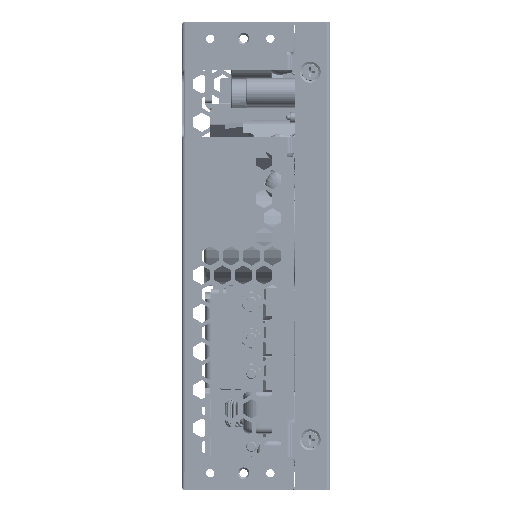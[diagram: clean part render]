
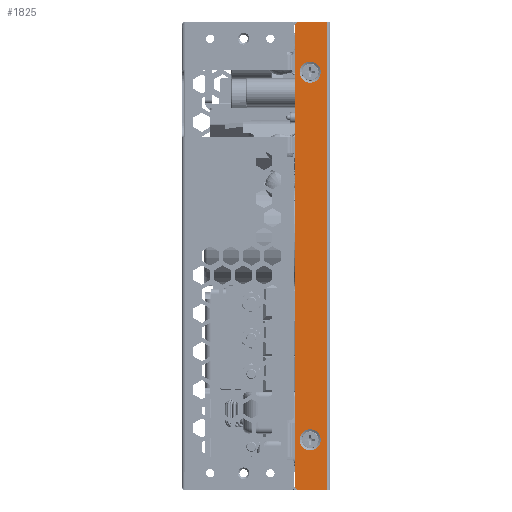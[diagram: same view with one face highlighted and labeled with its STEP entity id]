
A CAD part, left-side view. The second image highlights one B-rep face of the part: STEP entity #1825.
In plain terms, the highlighted planar face has unit normal (-1, 0, 0).
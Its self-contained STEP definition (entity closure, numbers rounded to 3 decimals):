
#260=DIRECTION('',(0.,0.,1.));
#261=VECTOR('',#260,140.);
#262=CARTESIAN_POINT('',(-44.45,1.,-70.));
#263=LINE('',#262,#261);
#398=DIRECTION('',(0.,1.,0.));
#399=VECTOR('',#398,8.5);
#400=CARTESIAN_POINT('',(-44.45,1.,70.));
#401=LINE('',#400,#399);
#410=CARTESIAN_POINT('',(-44.45,9.5,69.));
#411=DIRECTION('',(1.,0.,0.));
#412=DIRECTION('',(0.,1.,0.));
#413=AXIS2_PLACEMENT_3D('',#410,#411,#412);
#415=DIRECTION('',(0.,1.,0.));
#416=VECTOR('',#415,8.5);
#417=CARTESIAN_POINT('',(-44.45,1.,-70.));
#418=LINE('',#417,#416);
#419=CARTESIAN_POINT('',(-44.45,9.5,-69.));
#420=DIRECTION('',(1.,0.,0.));
#421=DIRECTION('',(0.,0.,-1.));
#422=AXIS2_PLACEMENT_3D('',#419,#420,#421);
#424=CARTESIAN_POINT('',(-44.45,6.,55.));
#425=DIRECTION('',(-1.,0.,0.));
#426=DIRECTION('',(0.,1.,0.));
#427=AXIS2_PLACEMENT_3D('',#424,#425,#426);
#429=CARTESIAN_POINT('',(-44.45,6.,55.));
#430=DIRECTION('',(-1.,0.,0.));
#431=DIRECTION('',(0.,-1.,0.));
#432=AXIS2_PLACEMENT_3D('',#429,#430,#431);
#434=CARTESIAN_POINT('',(-44.45,6.,-55.));
#435=DIRECTION('',(-1.,0.,0.));
#436=DIRECTION('',(0.,1.,0.));
#437=AXIS2_PLACEMENT_3D('',#434,#435,#436);
#439=CARTESIAN_POINT('',(-44.45,6.,-55.));
#440=DIRECTION('',(-1.,0.,0.));
#441=DIRECTION('',(0.,-1.,0.));
#442=AXIS2_PLACEMENT_3D('',#439,#440,#441);
#494=DIRECTION('',(0.,0.,-1.));
#495=VECTOR('',#494,138.);
#496=CARTESIAN_POINT('',(-44.45,10.5,69.));
#497=LINE('',#496,#495);
#1136=CARTESIAN_POINT('',(-44.45,1.,-70.));
#1137=VERTEX_POINT('',#1136);
#1142=CARTESIAN_POINT('',(-44.45,1.,70.));
#1143=VERTEX_POINT('',#1142);
#1211=CARTESIAN_POINT('',(-44.45,9.5,70.));
#1213=VERTEX_POINT('',#1211);
#1214=CARTESIAN_POINT('',(-44.45,10.5,69.));
#1215=VERTEX_POINT('',#1214);
#1218=CARTESIAN_POINT('',(-44.45,9.5,-70.));
#1219=VERTEX_POINT('',#1218);
#1220=CARTESIAN_POINT('',(-44.45,10.5,-69.));
#1221=VERTEX_POINT('',#1220);
#1222=CARTESIAN_POINT('',(-44.45,9.15,55.));
#1223=CARTESIAN_POINT('',(-44.45,2.85,55.));
#1224=VERTEX_POINT('',#1222);
#1225=VERTEX_POINT('',#1223);
#1226=CARTESIAN_POINT('',(-44.45,9.15,-55.));
#1227=CARTESIAN_POINT('',(-44.45,2.85,-55.));
#1228=VERTEX_POINT('',#1226);
#1229=VERTEX_POINT('',#1227);
#1797=CARTESIAN_POINT('',(-44.45,10.5,-70.));
#1798=DIRECTION('',(-1.,0.,0.));
#1799=DIRECTION('',(0.,-1.,0.));
#1800=AXIS2_PLACEMENT_3D('',#1797,#1798,#1799);
#1801=PLANE('',#1800);
#1802=ORIENTED_EDGE('',*,*,#1787,.T.);
#1803=ORIENTED_EDGE('',*,*,#1777,.F.);
#1804=ORIENTED_EDGE('',*,*,#1640,.F.);
#1806=ORIENTED_EDGE('',*,*,#1805,.T.);
#1808=ORIENTED_EDGE('',*,*,#1807,.T.);
#1810=ORIENTED_EDGE('',*,*,#1809,.F.);
#1811=EDGE_LOOP('',(#1802,#1803,#1804,#1806,#1808,#1810));
#1812=FACE_OUTER_BOUND('',#1811,.F.);
#1814=ORIENTED_EDGE('',*,*,#1813,.T.);
#1816=ORIENTED_EDGE('',*,*,#1815,.T.);
#1817=EDGE_LOOP('',(#1814,#1816));
#1818=FACE_BOUND('',#1817,.F.);
#1820=ORIENTED_EDGE('',*,*,#1819,.T.);
#1822=ORIENTED_EDGE('',*,*,#1821,.T.);
#1823=EDGE_LOOP('',(#1820,#1822));
#1824=FACE_BOUND('',#1823,.F.);
#414=CIRCLE('',#413,1.);
#423=CIRCLE('',#422,1.);
#428=CIRCLE('',#427,3.15);
#433=CIRCLE('',#432,3.15);
#438=CIRCLE('',#437,3.15);
#443=CIRCLE('',#442,3.15);
#1640=EDGE_CURVE('',#1137,#1143,#263,.T.);
#1777=EDGE_CURVE('',#1143,#1213,#401,.T.);
#1787=EDGE_CURVE('',#1215,#1213,#414,.T.);
#1805=EDGE_CURVE('',#1137,#1219,#418,.T.);
#1807=EDGE_CURVE('',#1219,#1221,#423,.T.);
#1809=EDGE_CURVE('',#1215,#1221,#497,.T.);
#1813=EDGE_CURVE('',#1224,#1225,#428,.T.);
#1815=EDGE_CURVE('',#1225,#1224,#433,.T.);
#1819=EDGE_CURVE('',#1228,#1229,#438,.T.);
#1821=EDGE_CURVE('',#1229,#1228,#443,.T.);
#1825=ADVANCED_FACE('',(#1812,#1818,#1824),#1801,.T.);
